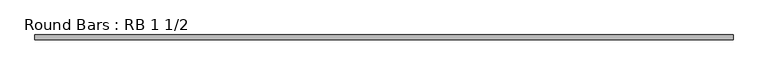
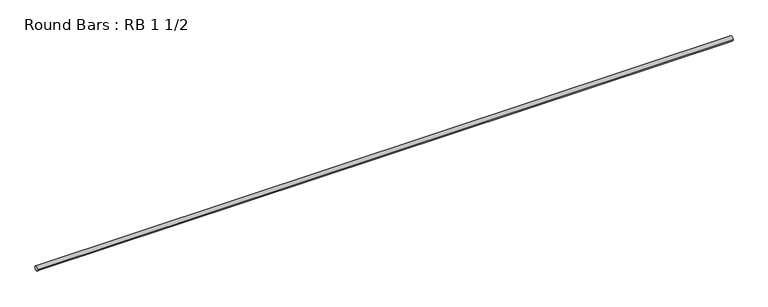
"""IFC4 building model written with IfcOpenShell, lengths in millimetres: member geometry, Round Bars : RB 1 1/2."""

from ifc_helpers import new_model, si_unit, point, frame, origin, origin_2d, place, context, project, spatial, circle_curve, trimmed, segment, composite_curve, outline, extrude, source, transform, mapped, element, save


def round_bars_rb_1_1_2_99246bff(model_context):
    return source(origin(), model_context, "Body", "SweptSolid", [
        extrude(outline(composite_curve([segment(trimmed(circle_curve(origin_2d(), 19.05), [point((19.05, 0.0))], [point((-19.05, 0.0))], False, "CARTESIAN"), True, "CONTINUOUS"), segment(trimmed(circle_curve(origin_2d(), 19.05), [point((-19.05, 0.0))], [point((19.05, 0.0))], False, "CARTESIAN"), True, "CONTINUOUS")], self_intersect=False)), frame((-2831.461085, 0.0, 0.0), z_axis=(1.0, 0.0, 0.0), x_axis=(0.0, 1.0, 0.0)), (0.0, 0.0, 1.0), 5662.9221699),
    ])


if __name__ == "__main__":
    model = new_model("IFC4")
    model_context = context("Model", 3, world=origin())
    ifc_project = project(units=[si_unit("LENGTHUNIT", "METRE", prefix="MILLI")], contexts=[model_context])
    site = spatial("IfcSite", under=ifc_project)
    building = spatial("IfcBuilding", under=site)
    placement = place(None, origin())
    round_bars_rb_1_1_2_shape = round_bars_rb_1_1_2_99246bff(model_context)
    element("IfcMember", 1, ObjectType="Round Bars : RB 1 1/2", at=placement, inside=building, context=model_context, shape_type="MappedRepresentation", body=[
        mapped(round_bars_rb_1_1_2_shape, transform((0.0, 0.0, 0.0), x_axis=(1.0, 0.0, 0.0), y_axis=(0.0, 1.0, 0.0), z_axis=(0.0, 0.0, 1.0))),
    ])
    save(model, "model.ifc")
